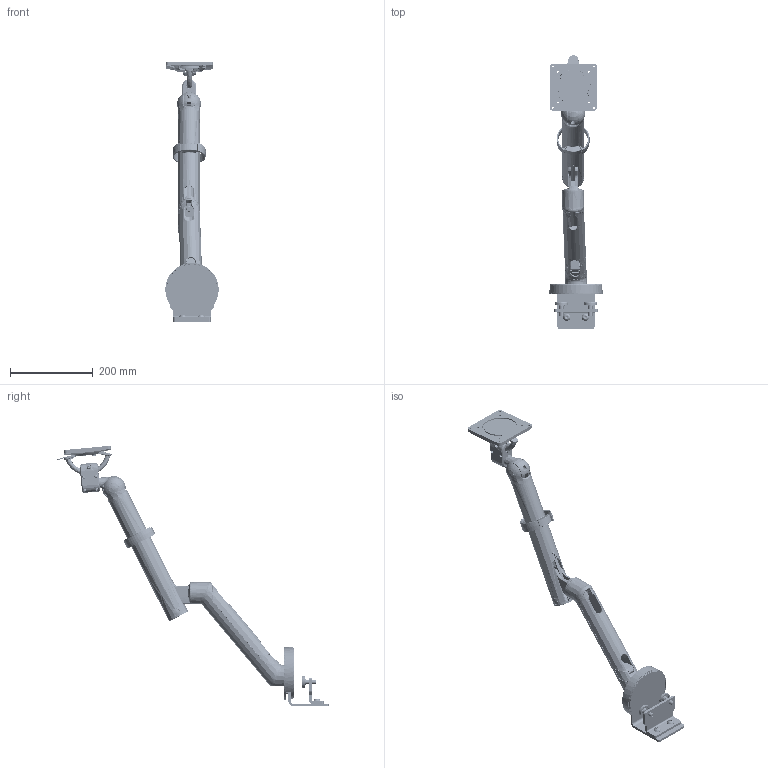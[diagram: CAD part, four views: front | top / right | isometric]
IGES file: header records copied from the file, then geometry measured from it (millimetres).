
Start section: SolidWorks IGES file using analytic representation for surfaces
Global section: file name: Z:\Customer CAD\Flo Plus with Split Clamp\DYN-026-A16-04_copy.IGS; native system: SolidWorks 2013; preprocessor: SolidWorks 2013; author: custcad; date: 130528.121550; units: millimetre
Bounding box: 128.71 x 660.58 x 630.05 mm (x, y, z)
Surface area: 629022.5 mm2 (no closed solid volume)
Topology: 0 solids, 0 shells, 3758 faces, 44050 edges, 43987 vertices
Faces by surface type: bspline 2435, revolution 1323
